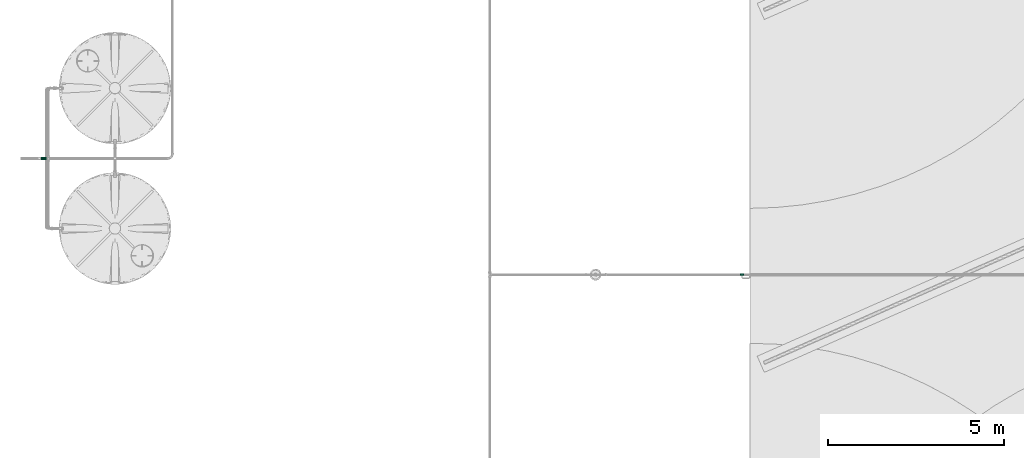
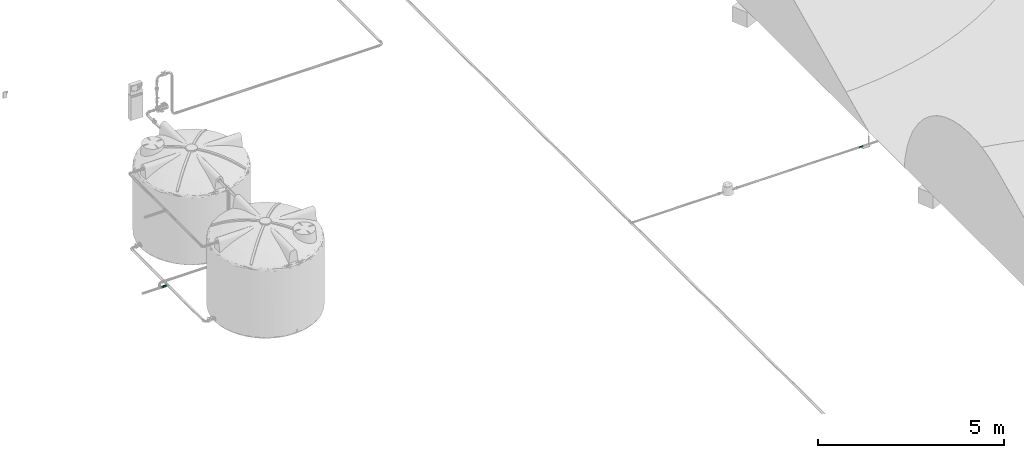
# One storey, part 53 of 166: 1 flow fitting, 1 flow segment.
"""IFC2X3 building model written with IfcOpenShell, lengths in metres."""

import ifcopenshell
import ifcopenshell.guid

model = None  # the IFC model being written
_history = None  # IfcOwnerHistory: only IFC2X3 demands one
_inside = {}  # id of a spatial element -> (the spatial element, [elements in it])
_under = {}  # id of a project, library or spatial element -> (it, [spatial elements below it])
_declared = {}  # id of a project -> (the project, [libraries it declares])
_typed = {}  # id of a type object -> (the type object, [elements of that type])
_made_of = {}  # id of a material, layer set ... -> (it, [elements and type objects made of it])


def new_model(schema):
    """Start an empty IFC model of exactly this schema.

    Asked for "IFC4X3", IfcOpenShell would pick the latest addendum, in which some entities
    have other attributes; the version numbers below select the first issue.
    IFC2X3 requires an IfcOwnerHistory on every rooted entity: one is made here for all.
    """
    global model, _history
    if schema == "IFC4X3":
        model = ifcopenshell.file(schema_version=(4, 3, 0, 0))
    else:
        model = ifcopenshell.file(schema=schema)
    _inside.clear()
    _under.clear()
    _declared.clear()
    _typed.clear()
    _made_of.clear()
    _history = None
    if model.schema == "IFC2X3":
        org = make("IfcOrganization", Name="unknown")
        user = make(
            "IfcPersonAndOrganization",
            ThePerson=make("IfcPerson", FamilyName="unknown"),
            TheOrganization=org,
        )
        app = make(
            "IfcApplication",
            ApplicationDeveloper=org,
            Version="unknown",
            ApplicationFullName="unknown",
            ApplicationIdentifier="unknown",
        )
        _history = make(
            "IfcOwnerHistory",
            OwningUser=user,
            OwningApplication=app,
            ChangeAction="ADDED",
            CreationDate=0,
        )
    return model


def make(cls, **values):
    """One entity of the class cls with the attributes given. An attribute that is None is left unset."""
    return model.create_entity(
        cls, **{name: value for name, value in values.items() if value is not None}
    )


def entity(cls, *values):
    """Any entity or typed value of the class cls, its attributes in the order of the schema. None: left unset."""
    e = model.create_entity(cls)
    for i, value in enumerate(values):
        if value is not None:
            e[i] = value
    return e


def rooted(cls, **values):
    """An entity with a GlobalId (a new one), such as an element, a storey or a relation."""
    return make(cls, GlobalId=ifcopenshell.guid.new(), OwnerHistory=_history, **values)


def si_unit(unit_type, name, prefix=None):
    """IfcSIUnit, for example si_unit("LENGTHUNIT", "METRE", prefix="MILLI")."""
    return make("IfcSIUnit", UnitType=unit_type, Prefix=prefix, Name=name)


def converted_unit(unit_type, name, factor, base, dimensions=None, offset=None):
    """IfcConversionBasedUnit, such as the inch: factor (a typed value) times the base unit."""
    return make(
        "IfcConversionBasedUnit"
        if offset is None
        else "IfcConversionBasedUnitWithOffset",
        ConversionOffset=offset,
        Dimensions=None
        if dimensions is None
        else entity("IfcDimensionalExponents", *dimensions),
        UnitType=unit_type,
        Name=name,
        ConversionFactor=make(
            "IfcMeasureWithUnit", ValueComponent=factor, UnitComponent=base
        ),
    )


def assignment(units):
    """IfcUnitAssignment: the units of a project."""
    return None if units is None else make("IfcUnitAssignment", Units=units)


def point(xyz):
    """IfcCartesianPoint."""
    return None if xyz is None else make("IfcCartesianPoint", Coordinates=xyz)


def direction(xyz):
    """IfcDirection."""
    return None if xyz is None else make("IfcDirection", DirectionRatios=xyz)


def frame(location, z_axis=None, x_axis=None):
    """IfcAxis2Placement3D, a coordinate frame: its origin and axes. An axis left out is left unset."""
    return make(
        "IfcAxis2Placement3D",
        Location=point(location),
        Axis=direction(z_axis),
        RefDirection=direction(x_axis),
    )


def frame_2d(location, x_axis=None):
    """IfcAxis2Placement2D, a coordinate frame in the plane: its origin and x axis."""
    return make(
        "IfcAxis2Placement2D", Location=point(location), RefDirection=direction(x_axis)
    )


def origin():
    """The frame at (0, 0, 0) with its axes left unset."""
    return frame((0.0, 0.0, 0.0))


def place(relative_to, where):
    """IfcLocalPlacement: puts the frame where relative to a parent placement (None: the world)."""
    return make(
        "IfcLocalPlacement", PlacementRelTo=relative_to, RelativePlacement=where
    )


def context(
    kind, dimensions, precision=None, world=None, true_north=None, identifier=None
):
    """IfcGeometricRepresentationContext, for example the 3D "Model" context."""
    return make(
        "IfcGeometricRepresentationContext",
        ContextIdentifier=identifier,
        ContextType=kind,
        CoordinateSpaceDimension=dimensions,
        Precision=precision,
        WorldCoordinateSystem=world,
        TrueNorth=true_north,
    )


def subcontext(parent, identifier, kind, view, scale=None):
    """IfcGeometricRepresentationSubContext, for example "Body" below "Model"."""
    return make(
        "IfcGeometricRepresentationSubContext",
        ContextIdentifier=identifier,
        ContextType=kind,
        ParentContext=parent,
        TargetScale=scale,
        TargetView=view,
    )


def project(units=None, contexts=None):
    """IfcProject with its units and contexts."""
    return rooted(
        "IfcProject",
        Name="project",
        RepresentationContexts=contexts,
        UnitsInContext=assignment(units),
    )


def spatial(cls, under=None, at=None, **own):
    """A site, building, storey or space (cls), placed at a placement, below another one or the project."""
    s = rooted(cls, ObjectPlacement=at, **own)
    if under is not None:
        _under.setdefault(under.id(), (under, []))[1].append(s)
    return s


def profile(cls, at=None, kind="AREA", **sizes):
    """A parametric profile (cls). Its sizes go by their IFC names, for example OverallWidth=200.0."""
    return make(cls, ProfileType=kind, Position=at, **sizes)


def circle(**sizes):
    """IfcCircleProfileDef."""
    return profile("IfcCircleProfileDef", **sizes)


def extrude(swept, where, along, depth):
    """IfcExtrudedAreaSolid: the profile swept, set in the frame where, extruded along a direction by depth."""
    return make(
        "IfcExtrudedAreaSolid",
        SweptArea=swept,
        Position=where,
        ExtrudedDirection=direction(along),
        Depth=depth,
    )


def faces_of(points, faces, orient=None, outer=None):
    """IfcFace entities. A face is a list of loops; a loop is a list of indices into points, from 0.

    orient and outer hold one flag for each loop. By default every Orientation is true, the
    first loop of a face is its IfcFaceOuterBound and the others are IfcFaceBound.
    """
    made = []
    for i, loops in enumerate(faces):
        bounds = []
        for j, loop in enumerate(loops):
            is_outer = j == 0 if outer is None else outer[i][j]
            bounds.append(
                make(
                    "IfcFaceOuterBound" if is_outer else "IfcFaceBound",
                    Bound=make("IfcPolyLoop", Polygon=[points[k] for k in loop]),
                    Orientation=True if orient is None else orient[i][j],
                )
            )
        made.append(make("IfcFace", Bounds=bounds))
    return made


def faceted_brep(points, faces, orient=None, outer=None, voids=None):
    """IfcFacetedBrep: a solid bounded by flat faces; with voids (closed shells), ...WithVoids."""
    shared = [point(p) for p in points]
    hull = make("IfcClosedShell", CfsFaces=faces_of(shared, faces, orient, outer))
    if voids is None:
        return make("IfcFacetedBrep", Outer=hull)
    return make(
        "IfcFacetedBrepWithVoids",
        Outer=hull,
        Voids=[
            make(cls, CfsFaces=faces_of(shared, fs, o, b)) for cls, fs, o, b in voids
        ],
    )


def shape(context_of_items, identifier, shape_type, items):
    """IfcShapeRepresentation: the items that make up one representation, for example the "Body"."""
    return make(
        "IfcShapeRepresentation",
        ContextOfItems=context_of_items,
        RepresentationIdentifier=identifier,
        RepresentationType=shape_type,
        Items=items,
    )


def source(mapping_origin, context_of_items, identifier, shape_type, items):
    """IfcRepresentationMap: a shape defined once, which mapped items show again and again."""
    return make(
        "IfcRepresentationMap",
        MappingOrigin=mapping_origin,
        MappedRepresentation=shape(context_of_items, identifier, shape_type, items),
    )


def transform(
    local_origin,
    x_axis=None,
    y_axis=None,
    z_axis=None,
    scale=None,
    scale2=None,
    scale3=None,
    uniform=True,
):
    """IfcCartesianTransformationOperator3D, or its non-uniform kind. x_axis, y_axis, z_axis: its Axis1, 2, 3."""
    if uniform:
        return make(
            "IfcCartesianTransformationOperator3D",
            Axis1=direction(x_axis),
            Axis2=direction(y_axis),
            LocalOrigin=point(local_origin),
            Scale=scale,
            Axis3=direction(z_axis),
        )
    return make(
        "IfcCartesianTransformationOperator3DnonUniform",
        Axis1=direction(x_axis),
        Axis2=direction(y_axis),
        LocalOrigin=point(local_origin),
        Scale=scale,
        Axis3=direction(z_axis),
        Scale2=scale2,
        Scale3=scale3,
    )


def mapped(mapping_source, mapping_target):
    """IfcMappedItem: shows the shape of a source again, moved by a transform."""
    return make(
        "IfcMappedItem", MappingSource=mapping_source, MappingTarget=mapping_target
    )


def material(Name=None, Category=None):
    """IfcMaterial."""
    return make("IfcMaterial", Name=Name, Category=Category)


def made_of(thing, what):
    """Note that an element or type object is made of a material, layer set ...; save() writes the relation."""
    if what is not None:
        _made_of.setdefault(what.id(), (what, []))[1].append(thing)
    return thing


def type_object(cls, material=None, **own):
    """A type object (cls), such as IfcWallType, which elements share."""
    return made_of(rooted(cls, **own), material)


def type_shapes(of_type, sources):
    """Give a type object the sources (RepresentationMaps) that its elements show as mapped items."""
    of_type.RepresentationMaps = sources


def element(
    cls,
    number,
    at=None,
    inside=None,
    cuts=None,
    type_object=None,
    material=None,
    context=None,
    identifier="Body",
    shape_type=None,
    held_by="IfcProductDefinitionShape",
    body=None,
    shapes=None,
    **own,
):
    """One element of the class cls, such as IfcWall. Its Tag is "e" and its number.

    at: its placement. inside: the storey or other place that contains it. cuts: it is an
    opening in that element (IfcRelVoidsElement). A single representation is given by context,
    identifier, shape_type and body (its items); several are given by shapes. held_by: the class
    of the entity that holds the representations. save() writes the other relations.
    """
    e = rooted(cls, Tag="e%d" % number, ObjectPlacement=at, **own)
    if body is not None:
        shapes = [shape(context, identifier, shape_type, body)]
    if shapes is not None:
        e.Representation = make(held_by, Representations=shapes)
    if inside is not None:
        _inside.setdefault(inside.id(), (inside, []))[1].append(e)
    if cuts is not None:
        rooted(
            "IfcRelVoidsElement", RelatingBuildingElement=cuts, RelatedOpeningElement=e
        )
    if type_object is not None:
        _typed.setdefault(type_object.id(), (type_object, []))[1].append(e)
    return made_of(e, material)


def aggregate(whole, parts):
    """IfcRelAggregates: a whole, such as a stair, and the parts it consists of."""
    return rooted("IfcRelAggregates", RelatingObject=whole, RelatedObjects=parts)


def save(model, path):
    """Write the relations noted so far, then the file.

    IfcRelAggregates (storeys below a building ...), IfcRelContainedInSpatialStructure (elements
    in a storey), IfcRelDefinesByType, IfcRelAssociatesMaterial and IfcRelDeclares: one each for
    every whole, place, type object, material and project.
    """
    for whole, parts in _under.values():
        aggregate(whole, parts)
    for where, things in _inside.values():
        rooted(
            "IfcRelContainedInSpatialStructure",
            RelatedElements=things,
            RelatingStructure=where,
        )
    for kind, things in _typed.values():
        rooted("IfcRelDefinesByType", RelatedObjects=things, RelatingType=kind)
    for what, things in _made_of.values():
        rooted("IfcRelAssociatesMaterial", RelatedObjects=things, RelatingMaterial=what)
    for by, libraries in _declared.values():
        rooted("IfcRelDeclares", RelatingContext=by, RelatedDefinitions=libraries)
    model.write(path)


model = new_model("IFC2X3")

# Units and contexts
model_context = context("Model", 3, precision=1e-05, world=origin(), true_north=direction((6.123233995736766e-17, 1.0)))
body_context = subcontext(model_context, "Body", "Model", "MODEL_VIEW")
ifc_project = project(units=[si_unit("LENGTHUNIT", "METRE"), converted_unit("PLANEANGLEUNIT", "DEGREE", entity("IfcPlaneAngleMeasure", 0.017453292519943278), si_unit("PLANEANGLEUNIT", "RADIAN"), dimensions=[0, 0, 0, 0, 0, 0, 0]), si_unit("AREAUNIT", "SQUARE_METRE")], contexts=[model_context])

# Site, building, storey
site_placement = place(None, origin())
site = spatial("IfcSite", under=ifc_project, at=site_placement, Name="Default", CompositionType="ELEMENT")
building_placement = place(site_placement, origin())
building = spatial("IfcBuilding", under=site, at=building_placement, Name="CASA DE ACOLHIDA PARA IDOSOS", CompositionType="ELEMENT")
storey_placement = place(building_placement, frame((0.0, 0.0, -1.7499999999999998)))
storey = spatial("IfcBuildingStorey", under=building, at=storey_placement, Name="IMPLANTAÇÃO DRENAGEM", CompositionType="ELEMENT", Elevation=-1.7499999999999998)

# Flow fitting
ifc_material = material(Name="PVC Branco")
pipe_fitting_type = type_object("IfcPipeFittingType", Name="AF_Roscavel_Te_Reducao:Standard", PredefinedType="NOTDEFINED", material=ifc_material)
shared_shape = source(origin(), body_context, "Body", "Brep", [
    faceted_brep([(-0.022099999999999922, 0.022730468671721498, -0.007053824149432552), (-0.022099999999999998, 0.028649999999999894, 0.0), (-0.021, 0.027149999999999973, 0.0), (-0.02099999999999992, 0.019184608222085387, -0.006684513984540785), (-0.020999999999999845, 0.011219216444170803, -0.013369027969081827), (-0.022099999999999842, 0.0168109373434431, -0.014107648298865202), (-0.020999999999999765, 0.0032538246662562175, -0.02005354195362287), (-0.022099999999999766, 0.010891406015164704, -0.02116147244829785), (-0.020999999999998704, -0.015930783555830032, -0.013369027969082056), (-0.022099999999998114, -0.020244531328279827, -0.007053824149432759), (-0.022099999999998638, -0.01183906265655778, -0.01410764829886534), (-0.020999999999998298, -0.02051095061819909, -0.007911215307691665), (-0.02209999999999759, -0.02865000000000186, 0.0), (-0.020999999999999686, -0.004711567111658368, -0.02673805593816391), (-0.02209999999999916, -0.0034335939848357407, -0.021161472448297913), (-0.022099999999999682, 0.004971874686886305, -0.028215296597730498), (-0.020999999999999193, -0.010321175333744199, -0.02005354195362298), (-0.02099999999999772, -0.027150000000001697, 0.0), (-0.02210000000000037, -0.022732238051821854, 0.007053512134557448), (-0.021000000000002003, -0.019182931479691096, 0.006684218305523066), (-0.021000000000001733, -0.011215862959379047, 0.013368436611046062), (-0.022100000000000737, -0.0168144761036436, 0.014107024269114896), (-0.021000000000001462, -0.0032487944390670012, 0.020052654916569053), (-0.022100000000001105, -0.010896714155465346, 0.021160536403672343), (-0.022100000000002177, 0.020242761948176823, 0.007053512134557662), (-0.02100000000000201, 0.021542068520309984, 0.006684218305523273), (-0.022100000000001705, 0.0034282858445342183, 0.021160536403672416), (-0.021000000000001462, 0.010326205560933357, 0.020052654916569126), (-0.022100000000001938, 0.01183552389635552, 0.014107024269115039), (-0.021000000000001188, 0.004718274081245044, 0.02673687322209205), (-0.022100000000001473, -0.004978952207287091, 0.028214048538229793), (-0.021000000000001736, 0.01593413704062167, 0.013368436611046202), (-0.02099999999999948, 0.018449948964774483, 0.010369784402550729), (0.021, 0.027149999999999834, 0.0), (0.021000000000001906, 0.004718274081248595, 0.026736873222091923), (0.021000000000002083, 0.010326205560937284, 0.02005265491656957), (0.021000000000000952, 0.015934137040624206, 0.013368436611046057), (0.021000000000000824, 0.020511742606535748, 0.007912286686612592), (0.021, -0.027150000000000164, 0.0), (0.0024774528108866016, -0.023369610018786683, 0.013819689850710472), (0.008258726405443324, -0.025259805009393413, 0.006909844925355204), (0.014040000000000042, -0.027150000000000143, 0.0), (-0.014039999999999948, -0.02715000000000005, 0.0), (-0.008913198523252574, -0.02597661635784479, 0.004289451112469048), (-0.0057812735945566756, -0.02525980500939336, 0.0069098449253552), (0.021000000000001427, -0.01918293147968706, 0.006684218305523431), (0.021000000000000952, -0.011215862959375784, 0.013368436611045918), (0.02100000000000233, -0.00324879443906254, 0.020052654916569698), (0.02099999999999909, 0.019607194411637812, -0.006329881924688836), (0.020999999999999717, 0.011219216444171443, -0.013369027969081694), (0.02099999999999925, 0.003253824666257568, -0.02005354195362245), (0.020999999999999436, -0.004711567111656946, -0.02673805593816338), (-0.0024814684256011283, -0.023370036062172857, -0.013818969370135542), (0.020999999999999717, -0.015930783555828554, -0.013369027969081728), (0.008912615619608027, -0.025976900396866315, -0.004288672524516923), (0.005779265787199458, -0.025260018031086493, -0.006909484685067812), (-0.00826073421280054, -0.025260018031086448, -0.006909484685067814), (0.020999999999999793, -0.020510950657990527, -0.007911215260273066), (0.020999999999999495, -0.010321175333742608, -0.020053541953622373), (0.02210000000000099, 0.01681093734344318, 0.014107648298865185), (0.022100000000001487, 0.01089140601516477, 0.021161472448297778), (0.022100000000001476, -0.012730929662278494, 0.013359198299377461), (0.022100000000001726, -0.003879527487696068, 0.020787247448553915), (0.022100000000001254, -0.020690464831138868, 0.006679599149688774), (0.022100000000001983, 0.004971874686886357, 0.02821529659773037), (0.0221, 0.028650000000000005, 0.0), (0.022100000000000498, 0.022730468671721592, 0.007053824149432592), (0.022100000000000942, -0.011839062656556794, 0.014107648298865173), (0.022100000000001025, -0.02864999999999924, 0.0), (0.022099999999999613, -0.009809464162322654, -0.022456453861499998), (0.022099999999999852, -0.021644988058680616, -0.008349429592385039), (0.02209999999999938, 0.0034282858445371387, -0.02116053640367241), (0.022099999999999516, -0.004978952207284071, -0.028214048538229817), (0.02209999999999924, 0.011835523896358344, -0.014107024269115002), (0.0220999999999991, 0.02024276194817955, -0.0070535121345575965), (0.02209999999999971, -0.014639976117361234, -0.01669885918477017), (0.022100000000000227, -0.016814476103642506, -0.014107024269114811), (-0.058500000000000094, -0.014325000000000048, -0.024811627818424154), (-0.058500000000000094, -0.025, 0.0), (-0.058500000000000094, -0.01997114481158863, -0.00871023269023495), (-0.0585000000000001, -0.019870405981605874, -0.015206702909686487), (-0.058500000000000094, -0.012500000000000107, -0.021650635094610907), (-0.058500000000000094, 0.0, -0.02165063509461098), (-0.058500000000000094, 0.012499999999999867, -0.021650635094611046), (-0.0585000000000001, 0.0, -0.024811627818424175), (-0.058500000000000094, -0.028650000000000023, 0.0), (-0.0585000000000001, -0.018750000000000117, 0.01082531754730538), (-0.058500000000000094, -0.012500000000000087, 0.021650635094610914), (-0.0585000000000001, -0.021487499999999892, 0.012405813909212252), (-0.058500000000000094, -0.014324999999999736, 0.02481162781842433), (-0.058500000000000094, 0.0, 0.021650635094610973), (-0.058500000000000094, 0.012499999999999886, 0.021650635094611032), (-0.0585000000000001, 0.0, 0.02481162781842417), (-0.058500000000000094, 0.014325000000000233, 0.024811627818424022), (-0.0585000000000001, 0.019870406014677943, 0.015206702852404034), (-0.058500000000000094, 0.02864999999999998, 0.0), (-0.058500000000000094, 0.019971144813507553, 0.00871023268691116), (-0.058500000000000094, 0.025, 0.0), (-0.0585000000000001, 0.021487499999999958, -0.012405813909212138), (-0.058500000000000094, 0.014324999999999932, -0.0248116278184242), (-0.058500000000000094, 0.018749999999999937, -0.010825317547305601), (0.0585000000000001, 0.021487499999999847, 0.012405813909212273), (0.058500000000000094, 0.028650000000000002, 0.0), (0.058500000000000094, -0.028650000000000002, 0.0), (0.0585000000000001, -0.01987040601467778, 0.015206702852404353), (0.0585000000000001, -0.021487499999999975, -0.012405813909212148), (0.0585000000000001, 0.019870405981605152, -0.015206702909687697), (0.058500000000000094, 0.014325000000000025, -0.024811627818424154), (0.058500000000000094, 0.024999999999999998, 0.0), (0.058500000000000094, 0.019971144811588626, -0.00871023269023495), (0.058500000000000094, 0.012500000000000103, -0.021650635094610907), (0.058500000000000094, 0.0, -0.02165063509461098), (0.058500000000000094, -0.012499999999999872, -0.021650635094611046), (0.0585000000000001, 0.0, -0.024811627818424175), (0.0585000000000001, 0.01875000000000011, 0.01082531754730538), (0.058500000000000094, 0.012500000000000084, 0.021650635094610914), (0.058500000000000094, 0.014324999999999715, 0.02481162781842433), (0.058500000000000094, 0.0, 0.021650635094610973), (0.058500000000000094, -0.012499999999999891, 0.021650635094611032), (0.0585000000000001, 0.0, 0.02481162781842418), (0.058500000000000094, -0.014325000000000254, 0.024811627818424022), (0.058500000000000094, -0.019971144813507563, 0.00871023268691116), (0.058500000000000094, -0.025000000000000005, 0.0), (0.058500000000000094, -0.014324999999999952, -0.0248116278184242), (0.058500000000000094, -0.018749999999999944, -0.010825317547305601), (-0.032600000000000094, -0.025, 0.0), (-0.032600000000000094, -0.019971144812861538, 0.00871023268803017), (-0.032600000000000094, -0.012500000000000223, 0.021650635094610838), (-0.032600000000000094, 0.0, 0.021650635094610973), (-0.032600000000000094, 0.012499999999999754, 0.02165063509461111), (-0.032600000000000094, 0.018749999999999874, 0.010825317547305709), (-0.032600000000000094, 0.025, 0.0), (-0.032600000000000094, 0.019971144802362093, -0.008710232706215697), (-0.032600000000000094, 0.012500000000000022, -0.021650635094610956), (-0.032600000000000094, 0.0, -0.02165063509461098), (-0.032600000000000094, -0.012499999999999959, -0.021650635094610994), (-0.032600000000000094, -0.018749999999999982, -0.010825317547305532), (0.03260000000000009, -0.025, 0.0), (0.032600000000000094, -0.018749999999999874, 0.010825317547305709), (0.032600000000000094, -0.012499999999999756, 0.02165063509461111), (0.032600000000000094, 0.0, 0.021650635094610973), (0.032600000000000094, 0.012500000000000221, 0.021650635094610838), (0.032600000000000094, 0.019971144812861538, 0.00871023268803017), (0.032600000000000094, 0.025, 0.0), (0.032600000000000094, 0.018749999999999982, -0.010825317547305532), (0.032600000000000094, 0.012499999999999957, -0.021650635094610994), (0.032600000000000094, 0.0, -0.02165063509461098), (0.032600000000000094, -0.012500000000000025, -0.021650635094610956), (0.032600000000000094, -0.019971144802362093, -0.008710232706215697), (0.012500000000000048, -0.03589999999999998, 0.0), (0.006250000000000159, -0.035899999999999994, 0.010825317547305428), (-0.0062499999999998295, -0.03590000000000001, 0.010825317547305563), (-0.012499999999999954, -0.03590000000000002, 0.0), (-0.006249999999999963, -0.03590000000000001, -0.010825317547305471), (0.006250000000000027, -0.035899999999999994, -0.01082531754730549), (0.012500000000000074, -0.05199999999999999, 0.0), (0.006250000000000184, -0.052, 0.010825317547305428), (-0.006249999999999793, -0.05200000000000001, 0.01082531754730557), (-0.01249999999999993, -0.052000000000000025, 0.0), (-0.006249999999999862, -0.05200000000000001, -0.010825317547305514), (0.006250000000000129, -0.052, -0.010825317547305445), (-0.011620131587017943, -0.028800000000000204, -0.0028835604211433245), (-0.01403999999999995, -0.02880000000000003, 0.0), (-0.002436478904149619, -0.028800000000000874, -0.013826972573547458), (-0.008238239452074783, -0.02880000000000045, -0.006913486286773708), (0.0030428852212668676, -0.028800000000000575, -0.009228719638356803), (0.014040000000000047, -0.02879999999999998, 0.0), (0.008541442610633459, -0.02880000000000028, -0.004614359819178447), (0.005801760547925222, -0.02880000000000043, -0.006913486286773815), (0.011620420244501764, -0.028799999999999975, 0.002883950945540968), (0.002439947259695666, -0.028799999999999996, 0.01382636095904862), (0.008239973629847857, -0.028799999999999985, 0.00691318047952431), (-0.0030421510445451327, -0.028800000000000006, 0.00922698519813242), (-0.008541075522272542, -0.028800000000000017, 0.004613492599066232), (-0.005800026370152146, -0.028800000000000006, 0.006913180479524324), (0.0026415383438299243, -0.030500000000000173, 0.01496870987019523), (0.008920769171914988, -0.03050000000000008, 0.007484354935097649), (0.010065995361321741, -0.030500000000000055, 0.006119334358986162), (0.015200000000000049, -0.03049999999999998, 0.0), (-0.015199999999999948, -0.03050000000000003, 0.0), (-0.006279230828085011, -0.0305000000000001, 0.007484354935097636), (-0.0026377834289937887, -0.030500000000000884, -0.01496937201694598), (-0.008918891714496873, -0.03050000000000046, -0.007484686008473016), (-0.010065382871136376, -0.030500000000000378, -0.006118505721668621), (0.006281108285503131, -0.03050000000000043, -0.007484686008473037), (0.007600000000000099, -0.052, -0.01316358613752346), (0.012327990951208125, -0.05199999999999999, -0.004974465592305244), (0.0, -0.052000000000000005, -0.01316358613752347), (0.015200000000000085, -0.051999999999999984, 0.0), (0.011400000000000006, -0.05199999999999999, 0.00658179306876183), (0.007599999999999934, -0.052, 0.013163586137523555), (0.0, -0.052000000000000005, 0.013163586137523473), (-0.007600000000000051, -0.05200000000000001, 0.01316358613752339), (-0.012327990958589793, -0.052000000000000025, 0.00497446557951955), (-0.015199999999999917, -0.05200000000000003, 0.0), (-0.011399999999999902, -0.052000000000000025, -0.006581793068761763), (-0.007599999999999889, -0.05200000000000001, -0.013163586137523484)], [[[0, 1, 2]], [[3, 4, 5]], [[6, 7, 4]], [[8, 9, 10]], [[11, 12, 9]], [[13, 14, 15]], [[14, 16, 10]], [[16, 14, 13]], [[2, 3, 0]], [[9, 8, 11]], [[11, 17, 12]], [[7, 6, 15]], [[6, 13, 15]], [[5, 4, 7]], [[16, 8, 10]], [[3, 5, 0]], [[18, 12, 17]], [[19, 20, 21]], [[22, 23, 20]], [[1, 24, 25]], [[25, 2, 1]], [[26, 27, 28]], [[29, 26, 30]], [[27, 26, 29]], [[17, 19, 18]], [[23, 22, 30]], [[24, 28, 31]], [[22, 29, 30]], [[21, 20, 23]], [[27, 31, 28]], [[19, 21, 18]], [[24, 31, 32, 25]], [[33, 2, 25, 32, 31, 27, 29, 34, 35, 36, 37]], [[38, 39, 40, 41]], [[20, 42, 43, 44, 39]], [[39, 38, 45, 46]], [[20, 39, 46]], [[34, 29, 22, 20, 46, 47]], [[42, 20, 19, 17]], [[4, 3, 2, 33, 48, 49, 50, 51, 13, 6]], [[51, 52, 13]], [[53, 41, 54, 55, 52]], [[8, 52, 56, 42]], [[42, 17, 11, 8]], [[41, 53, 57, 38]], [[52, 51, 58, 53]], [[52, 8, 16, 13]], [[36, 35, 59, 37]], [[34, 60, 35]], [[46, 45, 61]], [[47, 46, 62]], [[38, 63, 45]], [[64, 34, 47]], [[65, 33, 66]], [[60, 34, 64]], [[46, 61, 67, 62]], [[64, 47, 62]], [[33, 37, 66]], [[37, 59, 66]], [[63, 38, 68]], [[63, 61, 45]], [[60, 59, 35]], [[51, 69, 58]], [[68, 38, 70]], [[51, 71, 72]], [[73, 49, 74]], [[75, 53, 58]], [[33, 65, 48]], [[50, 73, 71]], [[53, 75, 76, 70]], [[48, 74, 49]], [[73, 50, 49]], [[51, 50, 71]], [[38, 57, 53, 70]], [[48, 65, 74]], [[69, 51, 72]], [[69, 75, 58]], [[77, 78, 79]], [[78, 77, 80]], [[77, 79, 81]], [[77, 81, 82]], [[77, 82, 83]], [[83, 84, 77]], [[78, 80, 85]], [[85, 86, 78]], [[85, 87, 86]], [[87, 85, 88]], [[87, 88, 89]], [[89, 90, 87]], [[89, 91, 90]], [[91, 89, 92]], [[91, 92, 93]], [[91, 93, 94]], [[91, 94, 95]], [[95, 96, 91]], [[95, 97, 96]], [[97, 95, 98]], [[97, 98, 99]], [[99, 83, 100]], [[83, 99, 84]], [[99, 100, 97]], [[28, 94, 93]], [[94, 28, 24, 1]], [[1, 95, 94]], [[65, 101, 102]], [[12, 88, 85]], [[68, 103, 104]], [[89, 21, 23, 30]], [[21, 89, 88]], [[88, 12, 18, 21]], [[92, 30, 26, 28]], [[30, 92, 89]], [[28, 93, 92]], [[10, 80, 77]], [[80, 10, 9, 12]], [[12, 85, 80]], [[68, 105, 103]], [[1, 98, 95]], [[65, 102, 106]], [[99, 5, 7, 15]], [[5, 99, 98]], [[98, 1, 0, 5]], [[15, 77, 84, 99]], [[77, 15, 14, 10]], [[107, 108, 109]], [[108, 107, 106]], [[107, 109, 110]], [[107, 110, 111]], [[107, 111, 112]], [[112, 113, 107]], [[108, 106, 102]], [[102, 114, 108]], [[102, 115, 114]], [[115, 102, 101]], [[115, 101, 116]], [[116, 117, 115]], [[116, 118, 117]], [[118, 116, 119]], [[118, 119, 120]], [[118, 120, 104]], [[118, 104, 103]], [[103, 121, 118]], [[103, 122, 121]], [[122, 103, 105]], [[122, 105, 123]], [[123, 112, 124]], [[112, 123, 113]], [[123, 124, 122]], [[67, 104, 120]], [[104, 67, 61, 63, 68]], [[116, 59, 60, 64]], [[59, 116, 101]], [[101, 65, 66, 59]], [[64, 120, 119, 116]], [[120, 64, 62, 67]], [[73, 106, 107]], [[106, 73, 74, 65]], [[123, 76, 75, 69, 72]], [[76, 123, 105]], [[105, 68, 70, 76]], [[113, 72, 71, 73]], [[72, 113, 123]], [[73, 107, 113]], [[125, 126, 127, 128, 129, 130, 131, 132, 133, 134, 135, 136]], [[87, 127, 126, 125, 78, 86]], [[137, 138, 139, 118, 121, 122]], [[129, 128, 127, 87, 90, 91]], [[139, 140, 141, 115, 117, 118]], [[131, 130, 129, 91, 96, 97]], [[115, 141, 142, 143, 108, 114]], [[83, 133, 132, 131, 97, 100]], [[143, 144, 145, 110, 109, 108]], [[135, 134, 133, 83, 82, 81]], [[145, 146, 147, 112, 111, 110]], [[125, 136, 135, 81, 79, 78]], [[112, 147, 148, 137, 122, 124]], [[143, 142, 141, 140, 139, 138, 137, 148, 147, 146, 145, 144]], [[149, 150, 151, 152, 153, 154]], [[155, 156, 150, 149]], [[156, 157, 151, 150]], [[157, 158, 152, 151]], [[158, 159, 153, 152]], [[159, 160, 154, 153]], [[160, 155, 149, 154]], [[42, 161, 162]], [[56, 163, 164, 161]], [[163, 56, 52]], [[165, 163, 52]], [[166, 167, 41]], [[55, 167, 168, 165]], [[55, 54, 41, 167]], [[165, 52, 55]], [[56, 161, 42]], [[41, 169, 166]], [[40, 170, 171, 169]], [[170, 40, 39]], [[172, 170, 39]], [[162, 173, 42]], [[44, 173, 174, 172]], [[44, 43, 42, 173]], [[172, 39, 44]], [[40, 169, 41]], [[175, 176, 177, 178, 166, 169, 171, 170]], [[170, 172, 174, 173, 162, 179, 180, 175]], [[181, 182, 183, 179, 162, 161, 164, 163]], [[163, 165, 168, 167, 166, 178, 184, 181]], [[185, 155, 160]], [[155, 185, 186]], [[185, 160, 159]], [[159, 187, 185]], [[155, 186, 188]], [[156, 155, 188]], [[156, 188, 189]], [[156, 189, 190]], [[156, 190, 157]], [[157, 190, 191]], [[157, 191, 192]], [[157, 192, 193]], [[157, 193, 194]], [[194, 158, 157]], [[158, 194, 195]], [[158, 195, 196]], [[196, 159, 158]], [[159, 196, 187]], [[180, 193, 192]], [[180, 179, 193]], [[179, 194, 193]], [[178, 189, 188]], [[175, 190, 176]], [[176, 190, 189]], [[189, 178, 177, 176]], [[180, 191, 175]], [[175, 191, 190]], [[180, 192, 191]], [[184, 186, 185]], [[184, 178, 186]], [[178, 188, 186]], [[179, 195, 194]], [[181, 196, 182]], [[182, 196, 195]], [[195, 179, 183, 182]], [[181, 185, 187, 196]], [[181, 184, 185]]]),
])
type_shapes(pipe_fitting_type, [shared_shape])
flow_fitting_placement = place(storey_placement, frame((-44.99094889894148, -3.5450579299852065, -0.19999999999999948), z_axis=(0.0, 0.0, -1.0), x_axis=(-1.0, 0.0, 0.0)))
element("IfcFlowFitting", 1, at=flow_fitting_placement, inside=storey, type_object=pipe_fitting_type, material=ifc_material, Name="AF_Roscavel_Te_Reducao:Standard", ObjectType="AF_Roscavel_Te_Reducao:Standard", context=body_context, shape_type="MappedRepresentation", body=[
    mapped(shared_shape, transform((0.0, 0.0, 0.0), scale=1.0)),
])

# Flow segment
pipe_segment_type = type_object("IfcPipeSegmentType", Name="Tipos de tubos:AF_Tubo Branco Roscável", PredefinedType="NOTDEFINED")
flow_segment_placement = place(storey_placement, origin())
element("IfcFlowSegment", 2, at=flow_segment_placement, inside=storey, type_object=pipe_segment_type, Name="Tipos de tubos:AF_Tubo Branco Roscável", ObjectType="Tipos de tubos:AF_Tubo Branco Roscável", context=body_context, shape_type="SweptSolid", body=[
    extrude(circle(Radius=0.037500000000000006, at=frame_2d((-7.783107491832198e-16, 0.0), x_axis=(1.0, 0.0))), frame((-64.85198057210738, -0.25137816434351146, 0.13343317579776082), z_axis=(1.0, 0.0, 0.0), x_axis=(0.0, 1.0, 0.0)), (0.0, 0.0, 1.0), 0.15339999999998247),
])

save(model, "model.ifc")
